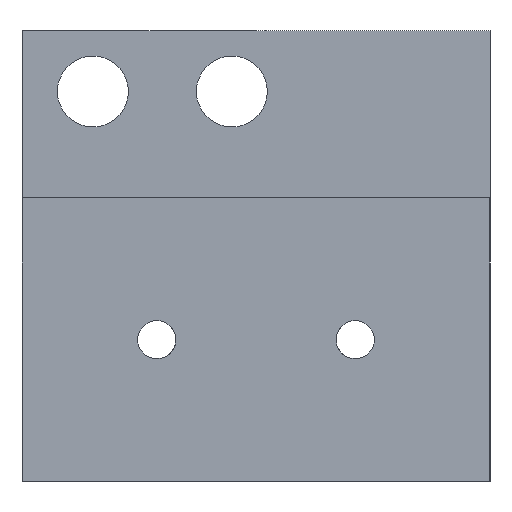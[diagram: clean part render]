
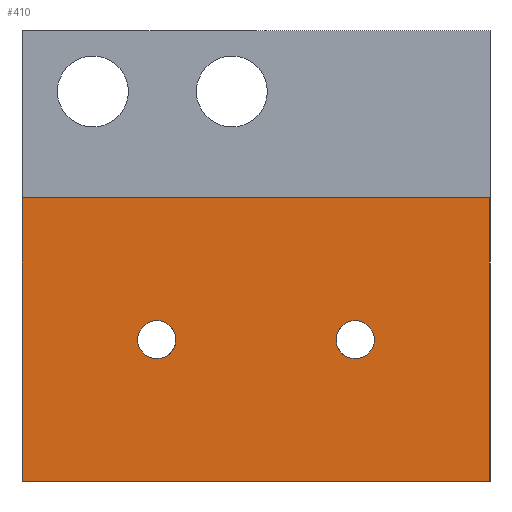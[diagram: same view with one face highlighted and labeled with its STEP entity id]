
A CAD part, left-side view. The second image highlights one B-rep face of the part: STEP entity #410.
In plain terms, the highlighted planar face has unit normal (-1, 0, 0).
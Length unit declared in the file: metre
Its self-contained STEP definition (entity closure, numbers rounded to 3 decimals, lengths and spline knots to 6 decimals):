
#22=LINE('',#664,#46);
#26=LINE('',#676,#50);
#31=LINE('',#690,#55);
#32=LINE('',#691,#56);
#46=VECTOR('',#529,1.);
#50=VECTOR('',#541,1.);
#55=VECTOR('',#552,1.);
#56=VECTOR('',#553,1.);
#64=PLANE('',#457);
#122=ORIENTED_EDGE('',*,*,#219,.F.);
#123=ORIENTED_EDGE('',*,*,#220,.F.);
#124=ORIENTED_EDGE('',*,*,#221,.F.);
#125=ORIENTED_EDGE('',*,*,#208,.F.);
#126=ORIENTED_EDGE('',*,*,#222,.T.);
#127=ORIENTED_EDGE('',*,*,#214,.T.);
#208=EDGE_CURVE('',#259,#255,#22,.T.);
#214=EDGE_CURVE('',#264,#263,#26,.T.);
#219=EDGE_CURVE('',#268,#268,#284,.T.);
#220=EDGE_CURVE('',#269,#269,#285,.T.);
#221=EDGE_CURVE('',#255,#263,#31,.T.);
#222=EDGE_CURVE('',#259,#264,#32,.T.);
#255=VERTEX_POINT('',#654);
#259=VERTEX_POINT('',#663);
#263=VERTEX_POINT('',#675);
#264=VERTEX_POINT('',#677);
#268=VERTEX_POINT('',#687);
#269=VERTEX_POINT('',#689);
#284=CIRCLE('',#458,0.00135);
#285=CIRCLE('',#459,0.00135);
#304=EDGE_LOOP('',(#122));
#305=EDGE_LOOP('',(#123));
#306=EDGE_LOOP('',(#124,#125,#126,#127));
#354=FACE_BOUND('',#304,.T.);
#355=FACE_BOUND('',#305,.T.);
#356=FACE_BOUND('',#306,.T.);
#410=ADVANCED_FACE('',(#354,#355,#356),#64,.T.);
#457=AXIS2_PLACEMENT_3D('',#685,#546,#547);
#458=AXIS2_PLACEMENT_3D('',#686,#548,#549);
#459=AXIS2_PLACEMENT_3D('',#688,#550,#551);
#529=DIRECTION('',(0.,0.,-1.));
#541=DIRECTION('',(0.,0.,-1.));
#546=DIRECTION('',(-1.,0.,0.));
#547=DIRECTION('',(0.,-1.,0.));
#548=DIRECTION('',(-1.,0.,0.));
#549=DIRECTION('',(0.,-1.,0.));
#550=DIRECTION('',(-1.,0.,0.));
#551=DIRECTION('',(0.,-1.,0.));
#552=DIRECTION('',(0.,1.,0.));
#553=DIRECTION('',(0.,1.,0.));
#654=CARTESIAN_POINT('',(0.040713,0.197725,0.));
#663=CARTESIAN_POINT('',(0.040713,0.197725,0.02));
#664=CARTESIAN_POINT('',(0.040713,0.197725,0.02));
#675=CARTESIAN_POINT('',(0.040713,0.230725,0.));
#676=CARTESIAN_POINT('',(0.040713,0.230725,0.02));
#677=CARTESIAN_POINT('',(0.040713,0.230725,0.02));
#685=CARTESIAN_POINT('',(0.040713,0.214225,0.02));
#686=CARTESIAN_POINT('',(0.040713,0.207225,0.01));
#687=CARTESIAN_POINT('',(0.040713,0.205875,0.01));
#688=CARTESIAN_POINT('',(0.040713,0.221225,0.01));
#689=CARTESIAN_POINT('',(0.040713,0.219875,0.01));
#690=CARTESIAN_POINT('',(0.040713,0.214225,0.));
#691=CARTESIAN_POINT('',(0.040713,0.214225,0.02));
